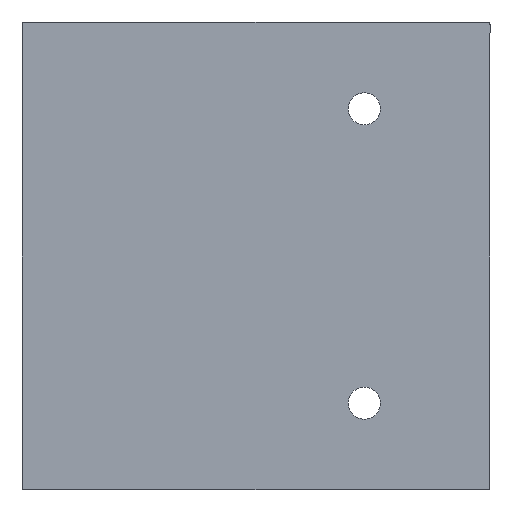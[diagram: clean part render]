
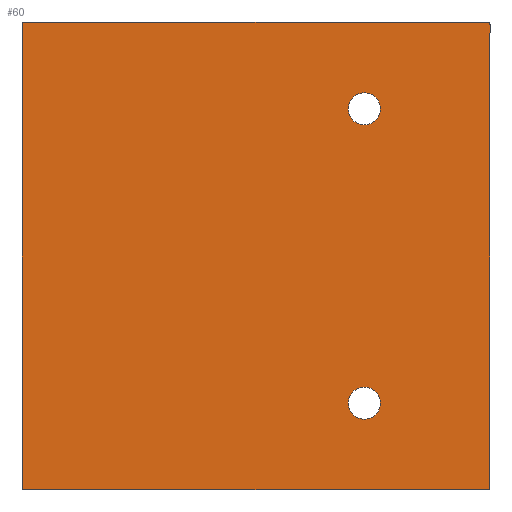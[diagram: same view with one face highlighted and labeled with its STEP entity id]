
A CAD part, left-side view. The second image highlights one B-rep face of the part: STEP entity #60.
In plain terms, the highlighted planar face has unit normal (-1, 0, 0).
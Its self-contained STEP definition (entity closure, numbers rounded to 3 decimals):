
#3 = ORIENTED_EDGE ( 'NONE', *, *, #395, .T. ) ;
#4 = EDGE_CURVE ( 'NONE', #446, #442, #275, .T. ) ;
#9 = CARTESIAN_POINT ( 'NONE',  ( 0., 0., -17.3 ) ) ;
#20 = DIRECTION ( 'NONE',  ( 1., 0., 0. ) ) ;
#34 = DIRECTION ( 'NONE',  ( 1., 0., 0. ) ) ;
#43 = CARTESIAN_POINT ( 'NONE',  ( 0., 9.4, -12.203 ) ) ;
#50 = FACE_BOUND ( 'NONE', #184, .T. ) ;
#55 = DIRECTION ( 'NONE',  ( 0., -1., 0. ) ) ;
#60 = ADVANCED_FACE ( 'NONE', ( #126, #204, #50 ), #82, .F. ) ;
#72 = DIRECTION ( 'NONE',  ( 0., 0., -1. ) ) ;
#77 = CIRCLE ( 'NONE', #444, 1.2 ) ;
#82 = PLANE ( 'NONE',  #248 ) ;
#84 = VERTEX_POINT ( 'NONE', #43 ) ;
#86 = CIRCLE ( 'NONE', #249, 1.2 ) ;
#103 = DIRECTION ( 'NONE',  ( 0., 0., -1. ) ) ;
#106 = EDGE_CURVE ( 'NONE', #314, #446, #458, .T. ) ;
#109 = ORIENTED_EDGE ( 'NONE', *, *, #4, .F. ) ;
#120 = CARTESIAN_POINT ( 'NONE',  ( 0., 9.4, 9.803 ) ) ;
#124 = EDGE_CURVE ( 'NONE', #461, #314, #470, .T. ) ;
#126 = FACE_OUTER_BOUND ( 'NONE', #292, .T. ) ;
#131 = EDGE_CURVE ( 'NONE', #480, #226, #319, .T. ) ;
#141 = CARTESIAN_POINT ( 'NONE',  ( 0., 0.2, -17.3 ) ) ;
#146 = CARTESIAN_POINT ( 'NONE',  ( 0., 9.4, -11.003 ) ) ;
#151 = EDGE_LOOP ( 'NONE', ( #189 ) ) ;
#154 = EDGE_CURVE ( 'NONE', #237, #480, #173, .T. ) ;
#160 = CARTESIAN_POINT ( 'NONE',  ( 0., 34.8, 17.5 ) ) ;
#161 = DIRECTION ( 'NONE',  ( 0., 0., -1. ) ) ;
#164 = DIRECTION ( 'NONE',  ( 1., 0., 0. ) ) ;
#167 = VECTOR ( 'NONE', #323, 1000. ) ;
#169 = DIRECTION ( 'NONE',  ( 0., 0., -1. ) ) ;
#171 = DIRECTION ( 'NONE',  ( 0., 0., -1. ) ) ;
#173 = CIRCLE ( 'NONE', #422, 0.2 ) ;
#174 = AXIS2_PLACEMENT_3D ( 'NONE', #141, #436, #103 ) ;
#180 = ORIENTED_EDGE ( 'NONE', *, *, #106, .F. ) ;
#184 = EDGE_LOOP ( 'NONE', ( #3 ) ) ;
#188 = CARTESIAN_POINT ( 'NONE',  ( 0., 0.2, -17.5 ) ) ;
#189 = ORIENTED_EDGE ( 'NONE', *, *, #310, .T. ) ;
#196 = DIRECTION ( 'NONE',  ( 0., 0., -1. ) ) ;
#204 = FACE_BOUND ( 'NONE', #151, .T. ) ;
#217 = CARTESIAN_POINT ( 'NONE',  ( 0., 35., 17.3 ) ) ;
#219 = ORIENTED_EDGE ( 'NONE', *, *, #154, .F. ) ;
#223 = LINE ( 'NONE', #188, #408 ) ;
#224 = ORIENTED_EDGE ( 'NONE', *, *, #124, .F. ) ;
#226 = VERTEX_POINT ( 'NONE', #217 ) ;
#234 = VERTEX_POINT ( 'NONE', #120 ) ;
#237 = VERTEX_POINT ( 'NONE', #372 ) ;
#239 = ORIENTED_EDGE ( 'NONE', *, *, #289, .F. ) ;
#248 = AXIS2_PLACEMENT_3D ( 'NONE', #305, #164, #161 ) ;
#249 = AXIS2_PLACEMENT_3D ( 'NONE', #287, #34, #72 ) ;
#260 = DIRECTION ( 'NONE',  ( 0., 1., 0. ) ) ;
#269 = AXIS2_PLACEMENT_3D ( 'NONE', #391, #318, #169 ) ;
#274 = CARTESIAN_POINT ( 'NONE',  ( 0., 35., -17.3 ) ) ;
#275 = LINE ( 'NONE', #419, #313 ) ;
#280 = CARTESIAN_POINT ( 'NONE',  ( 0., 35., 17.3 ) ) ;
#282 = EDGE_CURVE ( 'NONE', #387, #237, #223, .T. ) ;
#287 = CARTESIAN_POINT ( 'NONE',  ( 0., 9.4, 11.003 ) ) ;
#289 = EDGE_CURVE ( 'NONE', #226, #461, #393, .T. ) ;
#292 = EDGE_LOOP ( 'NONE', ( #417, #109, #180, #224, #239, #414, #219, #407 ) ) ;
#305 = CARTESIAN_POINT ( 'NONE',  ( 0., 0.2, -17.3 ) ) ;
#308 = AXIS2_PLACEMENT_3D ( 'NONE', #479, #406, #485 ) ;
#310 = EDGE_CURVE ( 'NONE', #84, #84, #77, .T. ) ;
#313 = VECTOR ( 'NONE', #196, 1000. ) ;
#314 = VERTEX_POINT ( 'NONE', #332 ) ;
#318 = DIRECTION ( 'NONE',  ( 1., 0., 0. ) ) ;
#319 = LINE ( 'NONE', #280, #167 ) ;
#322 = CARTESIAN_POINT ( 'NONE',  ( 0., 34.8, -17.3 ) ) ;
#323 = DIRECTION ( 'NONE',  ( 0., 0., 1. ) ) ;
#332 = CARTESIAN_POINT ( 'NONE',  ( 0., 0.2, 17.5 ) ) ;
#362 = CARTESIAN_POINT ( 'NONE',  ( 0., 0.2, -17.5 ) ) ;
#372 = CARTESIAN_POINT ( 'NONE',  ( 0., 34.8, -17.5 ) ) ;
#374 = VECTOR ( 'NONE', #55, 1000. ) ;
#384 = CIRCLE ( 'NONE', #174, 0.2 ) ;
#386 = CARTESIAN_POINT ( 'NONE',  ( 0., 0., 17.3 ) ) ;
#387 = VERTEX_POINT ( 'NONE', #362 ) ;
#391 = CARTESIAN_POINT ( 'NONE',  ( 0., 0.2, 17.3 ) ) ;
#393 = CIRCLE ( 'NONE', #308, 0.2 ) ;
#395 = EDGE_CURVE ( 'NONE', #234, #234, #86, .T. ) ;
#406 = DIRECTION ( 'NONE',  ( 1., 0., 0. ) ) ;
#407 = ORIENTED_EDGE ( 'NONE', *, *, #282, .F. ) ;
#408 = VECTOR ( 'NONE', #260, 1000. ) ;
#411 = DIRECTION ( 'NONE',  ( 1., 0., 0. ) ) ;
#414 = ORIENTED_EDGE ( 'NONE', *, *, #131, .F. ) ;
#417 = ORIENTED_EDGE ( 'NONE', *, *, #426, .F. ) ;
#419 = CARTESIAN_POINT ( 'NONE',  ( 0., 0., -17.3 ) ) ;
#422 = AXIS2_PLACEMENT_3D ( 'NONE', #322, #20, #171 ) ;
#426 = EDGE_CURVE ( 'NONE', #442, #387, #384, .T. ) ;
#430 = CARTESIAN_POINT ( 'NONE',  ( 0., 34.8, 17.5 ) ) ;
#436 = DIRECTION ( 'NONE',  ( 1., 0., 0. ) ) ;
#442 = VERTEX_POINT ( 'NONE', #9 ) ;
#444 = AXIS2_PLACEMENT_3D ( 'NONE', #146, #411, #473 ) ;
#446 = VERTEX_POINT ( 'NONE', #386 ) ;
#458 = CIRCLE ( 'NONE', #269, 0.2 ) ;
#461 = VERTEX_POINT ( 'NONE', #160 ) ;
#470 = LINE ( 'NONE', #430, #374 ) ;
#473 = DIRECTION ( 'NONE',  ( 0., 0., -1. ) ) ;
#479 = CARTESIAN_POINT ( 'NONE',  ( 0., 34.8, 17.3 ) ) ;
#480 = VERTEX_POINT ( 'NONE', #274 ) ;
#485 = DIRECTION ( 'NONE',  ( 0., 0., -1. ) ) ;
